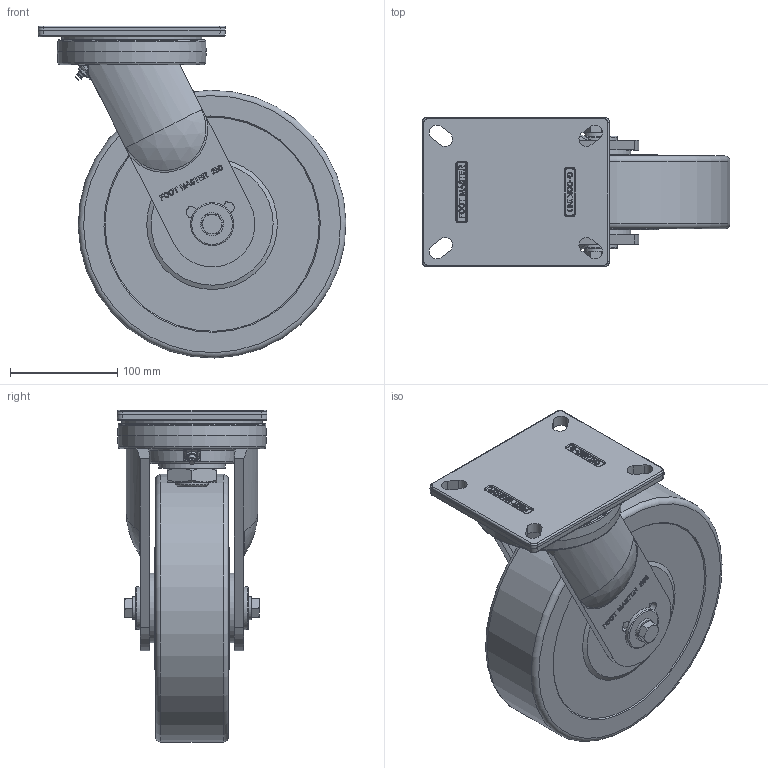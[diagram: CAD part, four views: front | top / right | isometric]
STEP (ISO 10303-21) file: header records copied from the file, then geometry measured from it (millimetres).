
FILE_DESCRIPTION(/* description */ (''),/* implementation_level */ '2;1');
FILE_NAME(/* name */ 'Y:\1.기술연구소\2.연구개발 진행중\133.고하중캐스터 브레이크 타입 변경건_2025.11.03\1.도면\4.홈페이지용 도면\01. 3D\GXT-250 SERIES\GXT-200-STEP\GXT-250-ASF-MCD.stp',/* time_stamp */ '2026-07-21T20:02:06+09:00',/* author */ ('장용하'),/* organization */ (''),/* preprocessor_version */ 'ST-DEVELOPER v18.1',/* originating_system */ 'Autodesk Inventor 2021',/* authorisation */ '');
FILE_SCHEMA (('CONFIG_CONTROL_DESIGN'));
Length unit declared in the file: millimetre
Products named in the file (1): GXT-250-ASF-MCD
Bounding box: 287.48 x 140 x 309.98 mm (x, y, z)
Volume: 4380065.5 mm3; surface area: 288813.2 mm2
Topology: 1 solids, 1 shells, 1004 faces, 2709 edges, 1783 vertices
Faces by surface type: plane 475, bspline 382, cylinder 95, cone 30, torus 18, sphere 4
Full cylindrical faces by diameter (mm): 12 x2, 21.5 x2, 30 x1, 40 x2, 62.5 x1, 65 x2, 131.086 x1, 250 x1
Entity records: 32806 total; most frequent: CARTESIAN_POINT 9960, ORIENTED_EDGE 5416, DIRECTION 3507, EDGE_CURVE 2708, VERTEX_POINT 1783, LINE 1543, VECTOR 1543, EDGE_LOOP 1101
